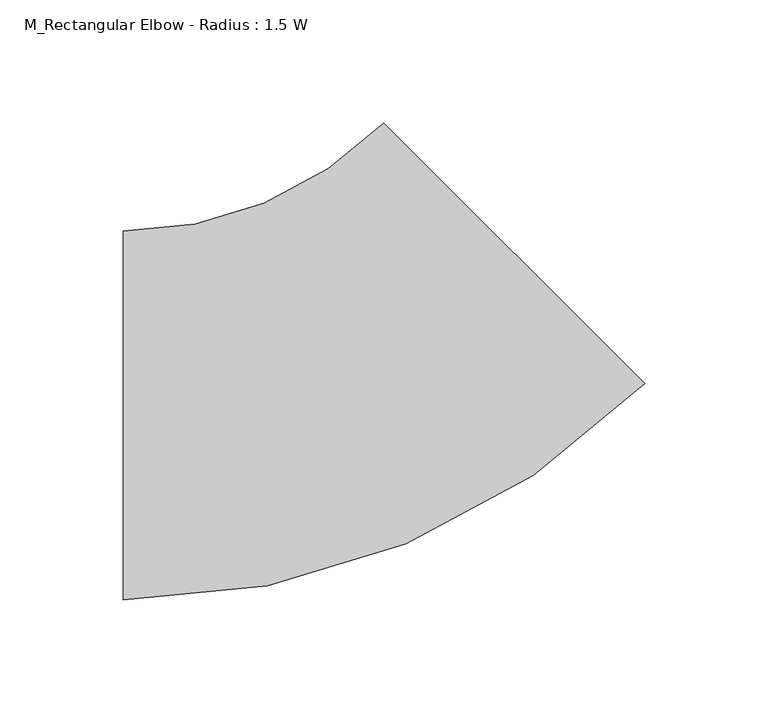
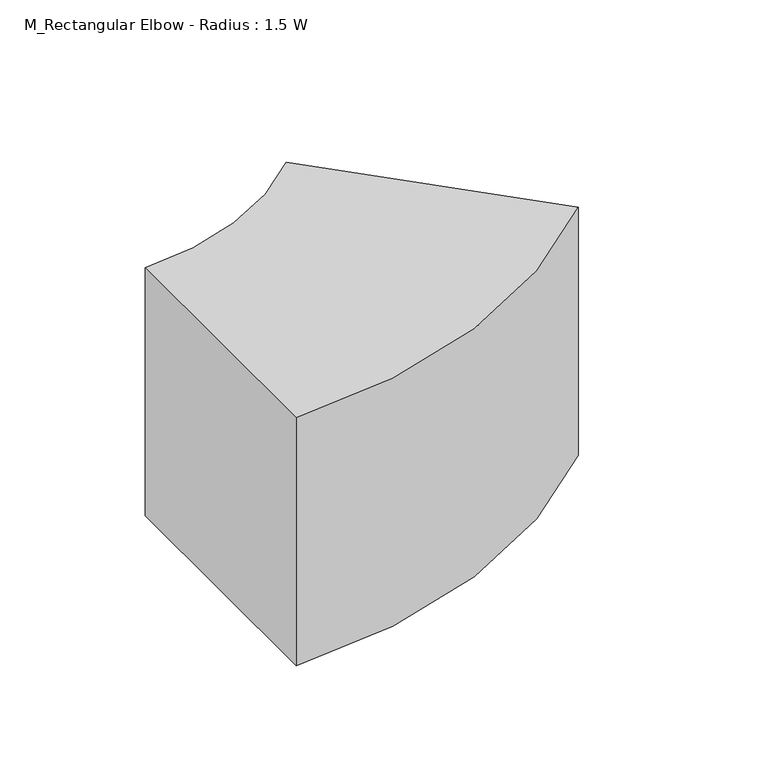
"""IFC4 building model written with IfcOpenShell, lengths in millimetres: duct fitting geometry, M_Rectangular Elbow - Radius : 1.5 W."""

import ifcopenshell
import ifcopenshell.guid

model = None  # the IFC model being written
_history = None  # IfcOwnerHistory: only IFC2X3 demands one
_inside = {}  # id of a spatial element -> (the spatial element, [elements in it])
_under = {}  # id of a project, library or spatial element -> (it, [spatial elements below it])
_declared = {}  # id of a project -> (the project, [libraries it declares])
_typed = {}  # id of a type object -> (the type object, [elements of that type])
_made_of = {}  # id of a material, layer set ... -> (it, [elements and type objects made of it])


def new_model(schema):
    """Start an empty IFC model of exactly this schema.

    Asked for "IFC4X3", IfcOpenShell would pick the latest addendum, in which some entities
    have other attributes; the version numbers below select the first issue.
    IFC2X3 requires an IfcOwnerHistory on every rooted entity: one is made here for all.
    """
    global model, _history
    if schema == "IFC4X3":
        model = ifcopenshell.file(schema_version=(4, 3, 0, 0))
    else:
        model = ifcopenshell.file(schema=schema)
    _inside.clear()
    _under.clear()
    _declared.clear()
    _typed.clear()
    _made_of.clear()
    _history = None
    if model.schema == "IFC2X3":
        org = make("IfcOrganization", Name="unknown")
        user = make(
            "IfcPersonAndOrganization",
            ThePerson=make("IfcPerson", FamilyName="unknown"),
            TheOrganization=org,
        )
        app = make(
            "IfcApplication",
            ApplicationDeveloper=org,
            Version="unknown",
            ApplicationFullName="unknown",
            ApplicationIdentifier="unknown",
        )
        _history = make(
            "IfcOwnerHistory",
            OwningUser=user,
            OwningApplication=app,
            ChangeAction="ADDED",
            CreationDate=0,
        )
    return model


def make(cls, **values):
    """One entity of the class cls with the attributes given. An attribute that is None is left unset."""
    return model.create_entity(
        cls, **{name: value for name, value in values.items() if value is not None}
    )


def rooted(cls, **values):
    """An entity with a GlobalId (a new one), such as an element, a storey or a relation."""
    return make(cls, GlobalId=ifcopenshell.guid.new(), OwnerHistory=_history, **values)


def si_unit(unit_type, name, prefix=None):
    """IfcSIUnit, for example si_unit("LENGTHUNIT", "METRE", prefix="MILLI")."""
    return make("IfcSIUnit", UnitType=unit_type, Prefix=prefix, Name=name)


def assignment(units):
    """IfcUnitAssignment: the units of a project."""
    return None if units is None else make("IfcUnitAssignment", Units=units)


def point(xyz):
    """IfcCartesianPoint."""
    return None if xyz is None else make("IfcCartesianPoint", Coordinates=xyz)


def direction(xyz):
    """IfcDirection."""
    return None if xyz is None else make("IfcDirection", DirectionRatios=xyz)


def frame(location, z_axis=None, x_axis=None):
    """IfcAxis2Placement3D, a coordinate frame: its origin and axes. An axis left out is left unset."""
    return make(
        "IfcAxis2Placement3D",
        Location=point(location),
        Axis=direction(z_axis),
        RefDirection=direction(x_axis),
    )


def frame_2d(location, x_axis=None):
    """IfcAxis2Placement2D, a coordinate frame in the plane: its origin and x axis."""
    return make(
        "IfcAxis2Placement2D", Location=point(location), RefDirection=direction(x_axis)
    )


def origin():
    """The frame at (0, 0, 0) with its axes left unset."""
    return frame((0.0, 0.0, 0.0))


def place(relative_to, where):
    """IfcLocalPlacement: puts the frame where relative to a parent placement (None: the world)."""
    return make(
        "IfcLocalPlacement", PlacementRelTo=relative_to, RelativePlacement=where
    )


def context(
    kind, dimensions, precision=None, world=None, true_north=None, identifier=None
):
    """IfcGeometricRepresentationContext, for example the 3D "Model" context."""
    return make(
        "IfcGeometricRepresentationContext",
        ContextIdentifier=identifier,
        ContextType=kind,
        CoordinateSpaceDimension=dimensions,
        Precision=precision,
        WorldCoordinateSystem=world,
        TrueNorth=true_north,
    )


def project(units=None, contexts=None):
    """IfcProject with its units and contexts."""
    return rooted(
        "IfcProject",
        Name="project",
        RepresentationContexts=contexts,
        UnitsInContext=assignment(units),
    )


def spatial(cls, under=None, at=None, **own):
    """A site, building, storey or space (cls), placed at a placement, below another one or the project."""
    s = rooted(cls, ObjectPlacement=at, **own)
    if under is not None:
        _under.setdefault(under.id(), (under, []))[1].append(s)
    return s


def polyline(points):
    """IfcPolyline through the points."""
    return make("IfcPolyline", Points=[point(p) for p in points])


def circle_curve(where, radius):
    """IfcCircle in the frame where."""
    return make("IfcCircle", Position=where, Radius=radius)


def trimmed(basis, trim1, trim2, sense, master):
    """IfcTrimmedCurve: the piece of a basis curve between two trims."""
    return make(
        "IfcTrimmedCurve",
        BasisCurve=basis,
        Trim1=trim1,
        Trim2=trim2,
        SenseAgreement=sense,
        MasterRepresentation=master,
    )


def segment(curve, same_sense, transition):
    """IfcCompositeCurveSegment."""
    return make(
        "IfcCompositeCurveSegment",
        Transition=transition,
        SameSense=same_sense,
        ParentCurve=curve,
    )


def composite_curve(segments, self_intersect=None):
    """IfcCompositeCurve: segments joined end to end."""
    return make("IfcCompositeCurve", Segments=segments, SelfIntersect=self_intersect)


def outline(outer, holes=None, kind="AREA"):
    """IfcArbitraryClosedProfileDef: a profile drawn as a closed curve; with holes, ...WithVoids."""
    if holes is None:
        return make("IfcArbitraryClosedProfileDef", ProfileType=kind, OuterCurve=outer)
    return make(
        "IfcArbitraryProfileDefWithVoids",
        ProfileType=kind,
        OuterCurve=outer,
        InnerCurves=holes,
    )


def extrude(swept, where, along, depth):
    """IfcExtrudedAreaSolid: the profile swept, set in the frame where, extruded along a direction by depth."""
    return make(
        "IfcExtrudedAreaSolid",
        SweptArea=swept,
        Position=where,
        ExtrudedDirection=direction(along),
        Depth=depth,
    )


def shape(context_of_items, identifier, shape_type, items):
    """IfcShapeRepresentation: the items that make up one representation, for example the "Body"."""
    return make(
        "IfcShapeRepresentation",
        ContextOfItems=context_of_items,
        RepresentationIdentifier=identifier,
        RepresentationType=shape_type,
        Items=items,
    )


def source(mapping_origin, context_of_items, identifier, shape_type, items):
    """IfcRepresentationMap: a shape defined once, which mapped items show again and again."""
    return make(
        "IfcRepresentationMap",
        MappingOrigin=mapping_origin,
        MappedRepresentation=shape(context_of_items, identifier, shape_type, items),
    )


def transform(
    local_origin,
    x_axis=None,
    y_axis=None,
    z_axis=None,
    scale=None,
    scale2=None,
    scale3=None,
    uniform=True,
):
    """IfcCartesianTransformationOperator3D, or its non-uniform kind. x_axis, y_axis, z_axis: its Axis1, 2, 3."""
    if uniform:
        return make(
            "IfcCartesianTransformationOperator3D",
            Axis1=direction(x_axis),
            Axis2=direction(y_axis),
            LocalOrigin=point(local_origin),
            Scale=scale,
            Axis3=direction(z_axis),
        )
    return make(
        "IfcCartesianTransformationOperator3DnonUniform",
        Axis1=direction(x_axis),
        Axis2=direction(y_axis),
        LocalOrigin=point(local_origin),
        Scale=scale,
        Axis3=direction(z_axis),
        Scale2=scale2,
        Scale3=scale3,
    )


def mapped(mapping_source, mapping_target):
    """IfcMappedItem: shows the shape of a source again, moved by a transform."""
    return make(
        "IfcMappedItem", MappingSource=mapping_source, MappingTarget=mapping_target
    )


def made_of(thing, what):
    """Note that an element or type object is made of a material, layer set ...; save() writes the relation."""
    if what is not None:
        _made_of.setdefault(what.id(), (what, []))[1].append(thing)
    return thing


def element(
    cls,
    number,
    at=None,
    inside=None,
    cuts=None,
    type_object=None,
    material=None,
    context=None,
    identifier="Body",
    shape_type=None,
    held_by="IfcProductDefinitionShape",
    body=None,
    shapes=None,
    **own,
):
    """One element of the class cls, such as IfcWall. Its Tag is "e" and its number.

    at: its placement. inside: the storey or other place that contains it. cuts: it is an
    opening in that element (IfcRelVoidsElement). A single representation is given by context,
    identifier, shape_type and body (its items); several are given by shapes. held_by: the class
    of the entity that holds the representations. save() writes the other relations.
    """
    e = rooted(cls, Tag="e%d" % number, ObjectPlacement=at, **own)
    if body is not None:
        shapes = [shape(context, identifier, shape_type, body)]
    if shapes is not None:
        e.Representation = make(held_by, Representations=shapes)
    if inside is not None:
        _inside.setdefault(inside.id(), (inside, []))[1].append(e)
    if cuts is not None:
        rooted(
            "IfcRelVoidsElement", RelatingBuildingElement=cuts, RelatedOpeningElement=e
        )
    if type_object is not None:
        _typed.setdefault(type_object.id(), (type_object, []))[1].append(e)
    return made_of(e, material)


def aggregate(whole, parts):
    """IfcRelAggregates: a whole, such as a stair, and the parts it consists of."""
    return rooted("IfcRelAggregates", RelatingObject=whole, RelatedObjects=parts)


def save(model, path):
    """Write the relations noted so far, then the file.

    IfcRelAggregates (storeys below a building ...), IfcRelContainedInSpatialStructure (elements
    in a storey), IfcRelDefinesByType, IfcRelAssociatesMaterial and IfcRelDeclares: one each for
    every whole, place, type object, material and project.
    """
    for whole, parts in _under.values():
        aggregate(whole, parts)
    for where, things in _inside.values():
        rooted(
            "IfcRelContainedInSpatialStructure",
            RelatedElements=things,
            RelatingStructure=where,
        )
    for kind, things in _typed.values():
        rooted("IfcRelDefinesByType", RelatedObjects=things, RelatingType=kind)
    for what, things in _made_of.values():
        rooted("IfcRelAssociatesMaterial", RelatedObjects=things, RelatingMaterial=what)
    for by, libraries in _declared.values():
        rooted("IfcRelDeclares", RelatingContext=by, RelatedDefinitions=libraries)
    model.write(path)


def m_rectangular_elbow_radius_1_5_w_13fbe4c8(model_context):
    return source(origin(), model_context, "Body", "SweptSolid", [
        extrude(outline(composite_curve([segment(trimmed(circle_curve(frame_2d((-93.1980515, 225.0)), 300.0), [point((118.9339828, 12.8679656))], [point((-93.1980515, -75.0))], False, "CARTESIAN"), True, "CONTINUOUS"), segment(polyline([(-93.1980515, -75.0), (-93.1980515, 75.0)]), True, "CONTINUOUS"), segment(trimmed(circle_curve(frame_2d((-93.1980515, 225.0)), 150.0), [point((-93.1980515, 75.0))], [point((12.8679656, 118.9339828))], True, "CARTESIAN"), True, "CONTINUOUS"), segment(polyline([(12.8679656, 118.9339828), (118.9339828, 12.8679656)]), True, "CONTINUOUS")], self_intersect=False)), frame((0.0, 0.0, -75.0), z_axis=(0.0, 0.0, 1.0), x_axis=(1.0, 0.0, 0.0)), (0.0, 0.0, 1.0), 150.0),
        extrude(outline(composite_curve([segment(trimmed(circle_curve(frame_2d((-93.1980515, 225.0)), 300.0), [point((118.9339828, 12.8679656))], [point((-93.1980515, -75.0))], False, "CARTESIAN"), True, "CONTINUOUS"), segment(polyline([(-93.1980515, -75.0), (-93.1980515, 75.0)]), True, "CONTINUOUS"), segment(trimmed(circle_curve(frame_2d((-93.1980515, 225.0)), 150.0), [point((-93.1980515, 75.0))], [point((12.8679656, 118.9339828))], True, "CARTESIAN"), True, "CONTINUOUS"), segment(polyline([(12.8679656, 118.9339828), (118.9339828, 12.8679656)]), True, "CONTINUOUS")], self_intersect=False)), frame((0.0, 0.0, -75.0), z_axis=(0.0, 0.0, 1.0), x_axis=(1.0, 0.0, 0.0)), (0.0, 0.0, 1.0), 150.0),
        extrude(outline(composite_curve([segment(trimmed(circle_curve(frame_2d((-93.1980515, 225.0)), 300.0), [point((118.9339828, 12.8679656))], [point((-93.1980515, -75.0))], False, "CARTESIAN"), True, "CONTINUOUS"), segment(polyline([(-93.1980515, -75.0), (-93.1980515, 75.0)]), True, "CONTINUOUS"), segment(trimmed(circle_curve(frame_2d((-93.1980515, 225.0)), 150.0), [point((-93.1980515, 75.0))], [point((12.8679656, 118.9339828))], True, "CARTESIAN"), True, "CONTINUOUS"), segment(polyline([(12.8679656, 118.9339828), (118.9339828, 12.8679656)]), True, "CONTINUOUS")], self_intersect=False)), frame((0.0, 0.0, -75.0), z_axis=(0.0, 0.0, 1.0), x_axis=(1.0, 0.0, 0.0)), (0.0, 0.0, 1.0), 150.0),
    ])


if __name__ == "__main__":
    model = new_model("IFC4")
    model_context = context("Model", 3, world=origin())
    ifc_project = project(units=[si_unit("LENGTHUNIT", "METRE", prefix="MILLI")], contexts=[model_context])
    site = spatial("IfcSite", under=ifc_project)
    building = spatial("IfcBuilding", under=site)
    placement = place(None, origin())
    m_rectangular_elbow_radius_1_5_w_shape = m_rectangular_elbow_radius_1_5_w_13fbe4c8(model_context)
    element("IfcDuctFitting", 1, ObjectType="M_Rectangular Elbow - Radius : 1.5 W", at=placement, inside=building, context=model_context, shape_type="MappedRepresentation", body=[
        mapped(m_rectangular_elbow_radius_1_5_w_shape, transform((0.0, 0.0, 0.0), x_axis=(1.0, 0.0, 0.0), y_axis=(0.0, 1.0, 0.0), z_axis=(0.0, 0.0, 1.0))),
    ])
    save(model, "model.ifc")
